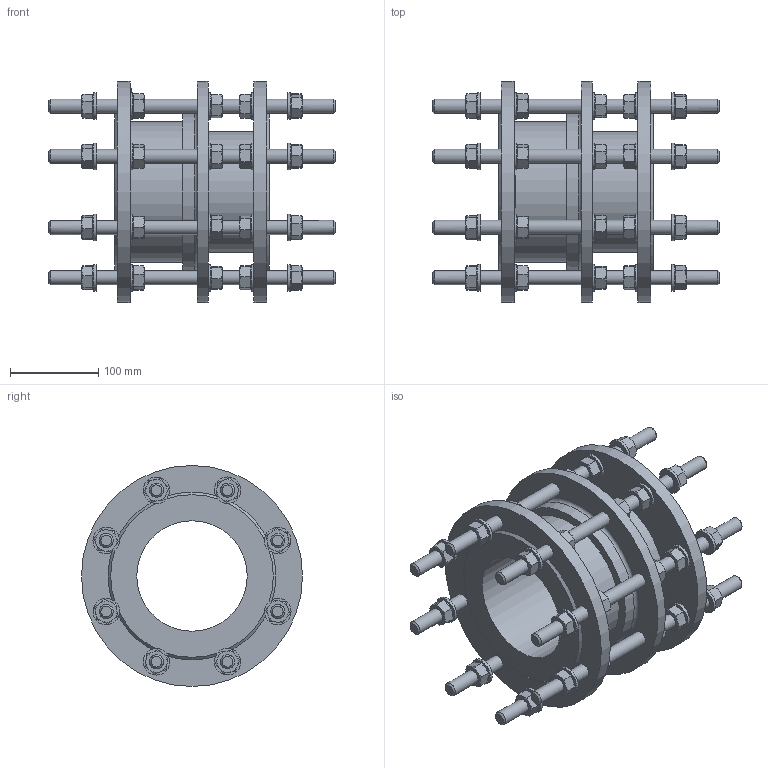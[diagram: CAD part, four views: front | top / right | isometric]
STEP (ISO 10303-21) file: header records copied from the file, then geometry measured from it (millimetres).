
FILE_DESCRIPTION (( 'STEP AP203' ), '1' );
FILE_NAME ('O_265_910_DN125_1XXXXX00_L=175_REV01.step', '2024-10-11T08:11:48', ( '' ), ( '' ), 'SwSTEP 2.0', 'SolidWorks 2022', '' );
FILE_SCHEMA (( 'CONFIG_CONTROL_DESIGN' ));
Length unit declared in the file: millimetre
Products named in the file (1): O_265_910_DN125_1XXXXX00_L=175_REV01
Bounding box: 325 x 250 x 250 mm (x, y, z)
Volume: 3071069.1 mm3; surface area: 511268.1 mm2
Topology: 1 solids, 1 shells, 1036 faces, 2265 edges, 1354 vertices
Faces by surface type: plane 640, cone 259, cylinder 136, torus 1
Full cylindrical faces by diameter (mm): 16 x48, 24 x40, 30 x40, 125 x1, 137 x1, 159 x1, 250 x3
Entity records: 28514 total; most frequent: CARTESIAN_POINT 7244, DIRECTION 4371, ORIENTED_EDGE 4084, EDGE_CURVE 2042, AXIS2_PLACEMENT_3D 1772, EDGE_LOOP 1347, VERTEX_POINT 1285, FACE_OUTER_BOUND 1171
